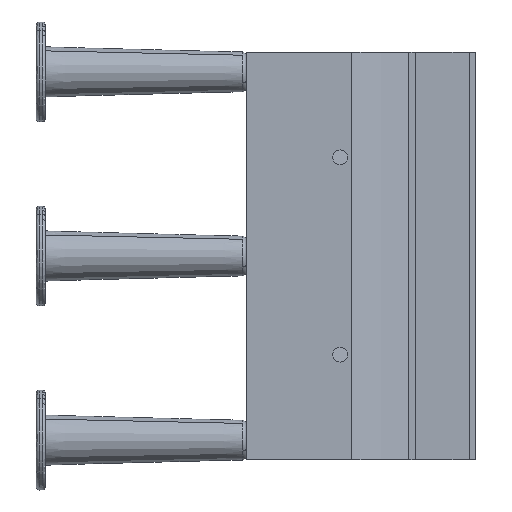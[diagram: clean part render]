
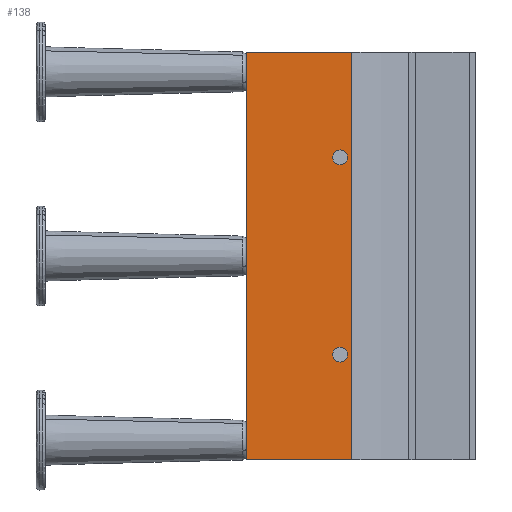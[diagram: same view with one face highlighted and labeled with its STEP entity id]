
A CAD part, left-side view. The second image highlights one B-rep face of the part: STEP entity #138.
In plain terms, the highlighted planar face has unit normal (-1, 0, 0) as drawn and (0, -1, 0) by its records, which use the part's own axes.
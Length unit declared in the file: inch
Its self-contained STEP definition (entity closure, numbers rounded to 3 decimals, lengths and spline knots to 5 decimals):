
#74 = VERTEX_POINT ( 'NONE', #10947 ) ;
#119 = EDGE_CURVE ( 'NONE', #144, #126, #11147, .T. ) ;
#120 = ORIENTED_EDGE ( 'NONE', *, *, #119, .F. ) ;
#121 = ORIENTED_EDGE ( 'NONE', *, *, #139, .T. ) ;
#122 = EDGE_CURVE ( 'NONE', #126, #123, #11143, .T. ) ;
#123 = VERTEX_POINT ( 'NONE', #11139 ) ;
#124 = ORIENTED_EDGE ( 'NONE', *, *, #122, .F. ) ;
#125 = EDGE_CURVE ( 'NONE', #74, #123, #11138, .T. ) ;
#126 = VERTEX_POINT ( 'NONE', #11134 ) ;
#129 = EDGE_CURVE ( 'NONE', #438, #400, #11133, .T. ) ;
#130 = ORIENTED_EDGE ( 'NONE', *, *, #437, .F. ) ;
#131 = ORIENTED_EDGE ( 'NONE', *, *, #125, .T. ) ;
#132 = EDGE_LOOP ( 'NONE', ( #131, #124, #120, #121 ) ) ;
#134 = ORIENTED_EDGE ( 'NONE', *, *, #129, .F. ) ;
#136 = ORIENTED_EDGE ( 'NONE', *, *, #137, .F. ) ;
#137 = EDGE_CURVE ( 'NONE', #402, #504, #11192, .T. ) ;
#138 = ADVANCED_FACE ( 'NONE', ( #11187, #11186, #11185 ), #11184, .F. ) ;
#139 = EDGE_CURVE ( 'NONE', #144, #74, #11179, .T. ) ;
#141 = EDGE_LOOP ( 'NONE', ( #136, #142 ) ) ;
#142 = ORIENTED_EDGE ( 'NONE', *, *, #506, .F. ) ;
#143 = EDGE_LOOP ( 'NONE', ( #134, #130 ) ) ;
#144 = VERTEX_POINT ( 'NONE', #11175 ) ;
#400 = VERTEX_POINT ( 'NONE', #11747 ) ;
#402 = VERTEX_POINT ( 'NONE', #11746 ) ;
#437 = EDGE_CURVE ( 'NONE', #400, #438, #11892, .T. ) ;
#438 = VERTEX_POINT ( 'NONE', #11888 ) ;
#504 = VERTEX_POINT ( 'NONE', #12052 ) ;
#506 = EDGE_CURVE ( 'NONE', #504, #402, #12051, .T. ) ;
#10947 = CARTESIAN_POINT ( 'NONE',  ( 0., 0., -3.875 ) ) ;
#11129 = DIRECTION ( 'NONE',  ( 0., 0., -1. ) ) ;
#11130 = DIRECTION ( 'NONE',  ( 0., -1., 0. ) ) ;
#11131 = CARTESIAN_POINT ( 'NONE',  ( 1.78, 0., 1.875 ) ) ;
#11132 = AXIS2_PLACEMENT_3D ( 'NONE', #11131, #11130, #11129 ) ;
#11133 = CIRCLE ( 'NONE', #11132, 0.1405 ) ;
#11134 = CARTESIAN_POINT ( 'NONE',  ( 2., 0., 3.875 ) ) ;
#11135 = DIRECTION ( 'NONE',  ( 1., 0., 0. ) ) ;
#11136 = VECTOR ( 'NONE', #11135, 39.37008 ) ;
#11137 = CARTESIAN_POINT ( 'NONE',  ( 0., 0., -3.875 ) ) ;
#11138 = LINE ( 'NONE', #11137, #11136 ) ;
#11139 = CARTESIAN_POINT ( 'NONE',  ( 2., 0., -3.875 ) ) ;
#11140 = DIRECTION ( 'NONE',  ( 0., 0., -1. ) ) ;
#11141 = VECTOR ( 'NONE', #11140, 39.37008 ) ;
#11142 = CARTESIAN_POINT ( 'NONE',  ( 2., 0., 3.875 ) ) ;
#11143 = LINE ( 'NONE', #11142, #11141 ) ;
#11144 = DIRECTION ( 'NONE',  ( 1., 0., 0. ) ) ;
#11145 = VECTOR ( 'NONE', #11144, 39.37008 ) ;
#11146 = CARTESIAN_POINT ( 'NONE',  ( 0., 0., 3.875 ) ) ;
#11147 = LINE ( 'NONE', #11146, #11145 ) ;
#11175 = CARTESIAN_POINT ( 'NONE',  ( 0., 0., 3.875 ) ) ;
#11176 = DIRECTION ( 'NONE',  ( 0., 0., -1. ) ) ;
#11177 = VECTOR ( 'NONE', #11176, 39.37008 ) ;
#11178 = CARTESIAN_POINT ( 'NONE',  ( 0., 0., 3.875 ) ) ;
#11179 = LINE ( 'NONE', #11178, #11177 ) ;
#11180 = DIRECTION ( 'NONE',  ( 0., 0., 1. ) ) ;
#11181 = DIRECTION ( 'NONE',  ( 0., 1., 0. ) ) ;
#11182 = CARTESIAN_POINT ( 'NONE',  ( 0., 0., 3.875 ) ) ;
#11183 = AXIS2_PLACEMENT_3D ( 'NONE', #11182, #11181, #11180 ) ;
#11184 = PLANE ( 'NONE',  #11183 ) ;
#11185 = FACE_OUTER_BOUND ( 'NONE', #132, .T. ) ;
#11186 = FACE_BOUND ( 'NONE', #143, .T. ) ;
#11187 = FACE_BOUND ( 'NONE', #141, .T. ) ;
#11188 = DIRECTION ( 'NONE',  ( 0., 0., 1. ) ) ;
#11189 = DIRECTION ( 'NONE',  ( 0., -1., 0. ) ) ;
#11190 = CARTESIAN_POINT ( 'NONE',  ( 1.78, 0., -1.875 ) ) ;
#11191 = AXIS2_PLACEMENT_3D ( 'NONE', #11190, #11189, #11188 ) ;
#11192 = CIRCLE ( 'NONE', #11191, 0.1405 ) ;
#11746 = CARTESIAN_POINT ( 'NONE',  ( 1.78, 0., -2.0155 ) ) ;
#11747 = CARTESIAN_POINT ( 'NONE',  ( 1.78, 0., 2.0155 ) ) ;
#11888 = CARTESIAN_POINT ( 'NONE',  ( 1.78, 0., 1.7345 ) ) ;
#11889 = DIRECTION ( 'NONE',  ( 0., 0., -1. ) ) ;
#11890 = DIRECTION ( 'NONE',  ( 0., -1., 0. ) ) ;
#11891 = AXIS2_PLACEMENT_3D ( 'NONE', #11913, #11890, #11889 ) ;
#11892 = CIRCLE ( 'NONE', #11891, 0.1405 ) ;
#11913 = CARTESIAN_POINT ( 'NONE',  ( 1.78, 0., 1.875 ) ) ;
#12048 = DIRECTION ( 'NONE',  ( 0., -1., 0. ) ) ;
#12049 = CARTESIAN_POINT ( 'NONE',  ( 1.78, 0., -1.875 ) ) ;
#12050 = AXIS2_PLACEMENT_3D ( 'NONE', #12049, #12048, #12112 ) ;
#12051 = CIRCLE ( 'NONE', #12050, 0.1405 ) ;
#12052 = CARTESIAN_POINT ( 'NONE',  ( 1.78, 0., -1.7345 ) ) ;
#12112 = DIRECTION ( 'NONE',  ( 0., 0., 1. ) ) ;
